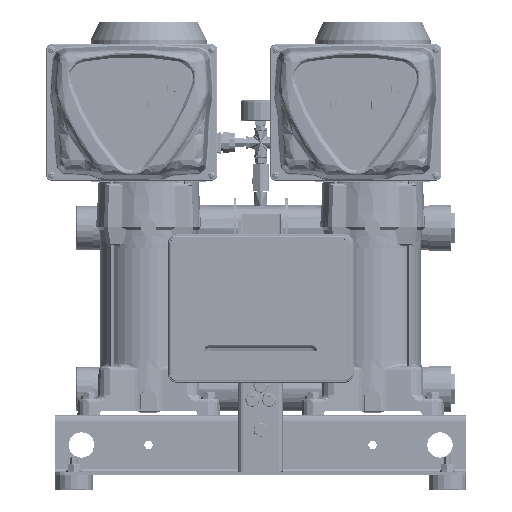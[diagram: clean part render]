
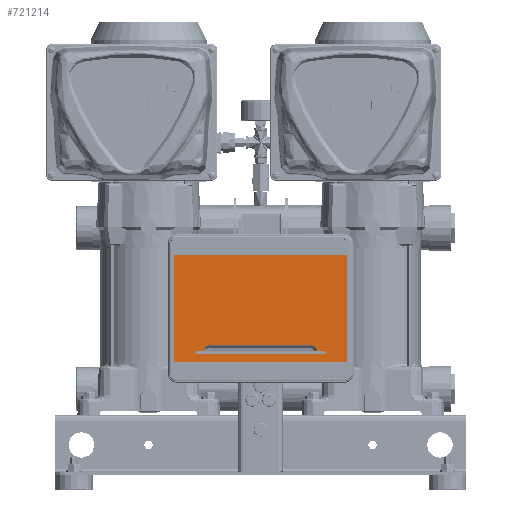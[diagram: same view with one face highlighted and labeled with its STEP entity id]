
A CAD part, top view. The second image highlights one B-rep face of the part: STEP entity #721214.
In plain terms, the highlighted planar face has unit normal (0, 0, 1).
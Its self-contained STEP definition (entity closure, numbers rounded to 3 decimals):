
#717821=DIRECTION('',(1.,0.,0.));
#717822=VECTOR('',#717821,231.);
#717823=CARTESIAN_POINT('',(-115.5,-71.5,112.5));
#717824=LINE('',#717823,#717822);
#717828=DIRECTION('',(0.,-1.,0.));
#717829=VECTOR('',#717828,143.);
#717830=CARTESIAN_POINT('',(-115.5,71.5,112.5));
#717831=LINE('',#717830,#717829);
#717835=DIRECTION('',(-1.,0.,0.));
#717836=VECTOR('',#717835,231.);
#717837=CARTESIAN_POINT('',(115.5,71.5,112.5));
#717838=LINE('',#717837,#717836);
#717842=DIRECTION('',(0.,1.,0.));
#717843=VECTOR('',#717842,143.);
#717844=CARTESIAN_POINT('',(115.5,-71.5,112.5));
#717845=LINE('',#717844,#717843);
#717849=DIRECTION('',(-1.,0.,0.));
#717850=VECTOR('',#717849,10.);
#717851=CARTESIAN_POINT('',(-75.85,-57.2,112.5));
#717852=LINE('',#717851,#717850);
#717856=CARTESIAN_POINT('',(-85.85,-58.85,112.5));
#717857=DIRECTION('',(0.,0.,1.));
#717858=DIRECTION('',(0.,1.,0.));
#717859=AXIS2_PLACEMENT_3D('',#717856,#717857,#717858);
#717864=DIRECTION('',(1.,0.,0.));
#717865=VECTOR('',#717864,171.7);
#717866=CARTESIAN_POINT('',(-85.85,-60.5,112.5));
#717867=LINE('',#717866,#717865);
#717871=CARTESIAN_POINT('',(85.85,-58.85,112.5));
#717872=DIRECTION('',(0.,0.,1.));
#717873=DIRECTION('',(0.,-1.,0.));
#717874=AXIS2_PLACEMENT_3D('',#717871,#717872,#717873);
#717879=DIRECTION('',(-1.,0.,0.));
#717880=VECTOR('',#717879,10.);
#717881=CARTESIAN_POINT('',(85.85,-57.2,112.5));
#717882=LINE('',#717881,#717880);
#717886=CARTESIAN_POINT('',(67.15,-57.2,112.5));
#717887=DIRECTION('',(0.,0.,-1.));
#717888=DIRECTION('',(0.,1.,0.));
#717889=AXIS2_PLACEMENT_3D('',#717886,#717887,#717888);
#717894=DIRECTION('',(1.,0.,0.));
#717895=VECTOR('',#717894,134.3);
#717896=CARTESIAN_POINT('',(-67.15,-48.5,112.5));
#717897=LINE('',#717896,#717895);
#717901=CARTESIAN_POINT('',(-67.15,-57.2,112.5));
#717902=DIRECTION('',(0.,0.,-1.));
#717903=DIRECTION('',(-1.,0.,0.));
#717904=AXIS2_PLACEMENT_3D('',#717901,#717902,#717903);
#718602=CARTESIAN_POINT('',(-115.5,-71.5,112.5));
#718603=CARTESIAN_POINT('',(115.5,-71.5,112.5));
#718604=VERTEX_POINT('',#718602);
#718605=VERTEX_POINT('',#718603);
#718606=CARTESIAN_POINT('',(115.5,71.5,112.5));
#718607=VERTEX_POINT('',#718606);
#718608=CARTESIAN_POINT('',(-115.5,71.5,112.5));
#718609=VERTEX_POINT('',#718608);
#718634=CARTESIAN_POINT('',(-85.85,-60.5,112.5));
#718635=CARTESIAN_POINT('',(85.85,-60.5,112.5));
#718636=VERTEX_POINT('',#718634);
#718637=VERTEX_POINT('',#718635);
#718638=CARTESIAN_POINT('',(85.85,-57.2,112.5));
#718639=VERTEX_POINT('',#718638);
#718640=CARTESIAN_POINT('',(-85.85,-57.2,112.5));
#718641=VERTEX_POINT('',#718640);
#718658=CARTESIAN_POINT('',(-75.85,-57.2,112.5));
#718659=CARTESIAN_POINT('',(-67.15,-48.5,112.5));
#718660=VERTEX_POINT('',#718658);
#718661=VERTEX_POINT('',#718659);
#718662=CARTESIAN_POINT('',(67.15,-48.5,112.5));
#718663=VERTEX_POINT('',#718662);
#718664=CARTESIAN_POINT('',(75.85,-57.2,112.5));
#718665=VERTEX_POINT('',#718664);
#721182=CARTESIAN_POINT('',(0.,0.,112.5));
#721183=DIRECTION('',(0.,0.,1.));
#721184=DIRECTION('',(1.,0.,0.));
#721185=AXIS2_PLACEMENT_3D('',#721182,#721183,#721184);
#721186=PLANE('',#721185);
#721187=ORIENTED_EDGE('',*,*,#721160,.F.);
#721189=ORIENTED_EDGE('',*,*,#721188,.F.);
#721191=ORIENTED_EDGE('',*,*,#721190,.F.);
#721193=ORIENTED_EDGE('',*,*,#721192,.F.);
#721194=EDGE_LOOP('',(#721187,#721189,#721191,#721193));
#721195=FACE_OUTER_BOUND('',#721194,.F.);
#721197=ORIENTED_EDGE('',*,*,#721196,.T.);
#721199=ORIENTED_EDGE('',*,*,#721198,.T.);
#721201=ORIENTED_EDGE('',*,*,#721200,.T.);
#721203=ORIENTED_EDGE('',*,*,#721202,.T.);
#721205=ORIENTED_EDGE('',*,*,#721204,.T.);
#721207=ORIENTED_EDGE('',*,*,#721206,.F.);
#721209=ORIENTED_EDGE('',*,*,#721208,.F.);
#721211=ORIENTED_EDGE('',*,*,#721210,.F.);
#721212=EDGE_LOOP('',(#721197,#721199,#721201,#721203,#721205,#721207,#721209,
#721211));
#721213=FACE_BOUND('',#721212,.F.);
#717860=CIRCLE('',#717859,1.65);
#717875=CIRCLE('',#717874,1.65);
#717890=CIRCLE('',#717889,8.7);
#717905=CIRCLE('',#717904,8.7);
#721160=EDGE_CURVE('',#718604,#718605,#717824,.T.);
#721188=EDGE_CURVE('',#718609,#718604,#717831,.T.);
#721190=EDGE_CURVE('',#718607,#718609,#717838,.T.);
#721192=EDGE_CURVE('',#718605,#718607,#717845,.T.);
#721196=EDGE_CURVE('',#718660,#718641,#717852,.T.);
#721198=EDGE_CURVE('',#718641,#718636,#717860,.T.);
#721200=EDGE_CURVE('',#718636,#718637,#717867,.T.);
#721202=EDGE_CURVE('',#718637,#718639,#717875,.T.);
#721204=EDGE_CURVE('',#718639,#718665,#717882,.T.);
#721206=EDGE_CURVE('',#718663,#718665,#717890,.T.);
#721208=EDGE_CURVE('',#718661,#718663,#717897,.T.);
#721210=EDGE_CURVE('',#718660,#718661,#717905,.T.);
#721214=ADVANCED_FACE('',(#721195,#721213),#721186,.T.);
